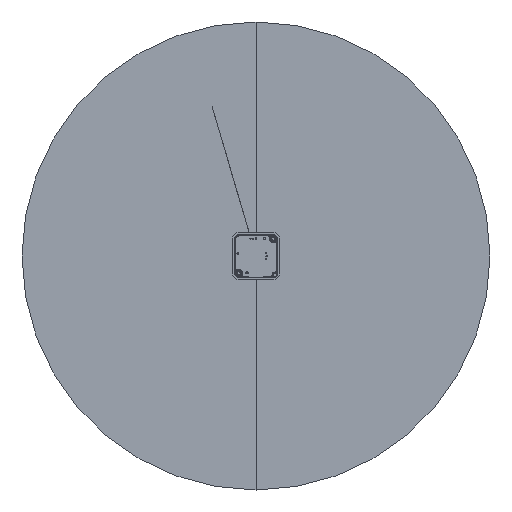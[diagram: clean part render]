
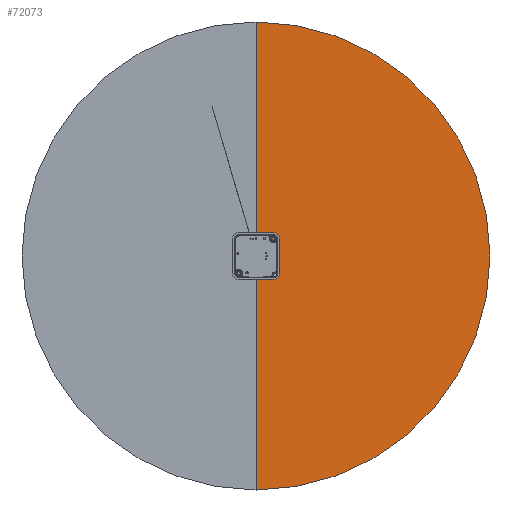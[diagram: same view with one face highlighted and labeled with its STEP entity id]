
A CAD part, front view. The second image highlights one B-rep face of the part: STEP entity #72073.
In plain terms, the highlighted conical face has half-angle 89.9 degrees and reference radius 98.073 mm.
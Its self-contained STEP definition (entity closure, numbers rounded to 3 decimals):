
#71973=CARTESIAN_POINT('',(-4.261,6.388,
-4.481));
#71974=DIRECTION('',(1.,-0.023,0.));
#71975=DIRECTION('',(0.023,1.,0.));
#71976=AXIS2_PLACEMENT_3D('',#71973,#71974,#71975);
#71981=DIRECTION('',(0.024,1.,0.));
#71982=VECTOR('',#71981,192.3);
#71983=CARTESIAN_POINT('',(-4.598,6.395,
-4.481));
#71984=LINE('',#71983,#71982);
#71988=DIRECTION('',(-0.021,-1.,0.));
#71989=VECTOR('',#71988,192.3);
#71990=CARTESIAN_POINT('',(-4.598,6.395,
-4.481));
#71991=LINE('',#71990,#71989);
#71999=CARTESIAN_POINT('',(-4.598,6.395,
-4.481));
#72000=CARTESIAN_POINT('',(0.101,198.638,
-4.481));
#72001=VERTEX_POINT('',#71999);
#72002=VERTEX_POINT('',#72000);
#72005=CARTESIAN_POINT('',(-8.624,-185.863,
-4.481));
#72006=VERTEX_POINT('',#72005);
#72061=CARTESIAN_POINT('',(-4.427,6.391,
-4.481));
#72062=DIRECTION('',(1.,-0.023,0.));
#72063=DIRECTION('',(-0.023,-1.,0.));
#72064=AXIS2_PLACEMENT_3D('',#72061,#72062,#72063);
#72065=CONICAL_SURFACE('',#72064,98.073,89.9);
#72067=ORIENTED_EDGE('',*,*,#72066,.F.);
#72069=ORIENTED_EDGE('',*,*,#72068,.T.);
#72070=ORIENTED_EDGE('',*,*,#72054,.F.);
#72071=EDGE_LOOP('',(#72067,#72069,#72070));
#72072=FACE_OUTER_BOUND('',#72071,.F.);
#71977=CIRCLE('',#71976,192.3);
#72054=EDGE_CURVE('',#72002,#72006,#71977,.T.);
#72066=EDGE_CURVE('',#72001,#72002,#71984,.T.);
#72068=EDGE_CURVE('',#72001,#72006,#71991,.T.);
#72073=ADVANCED_FACE('',(#72072),#72065,.F.);
